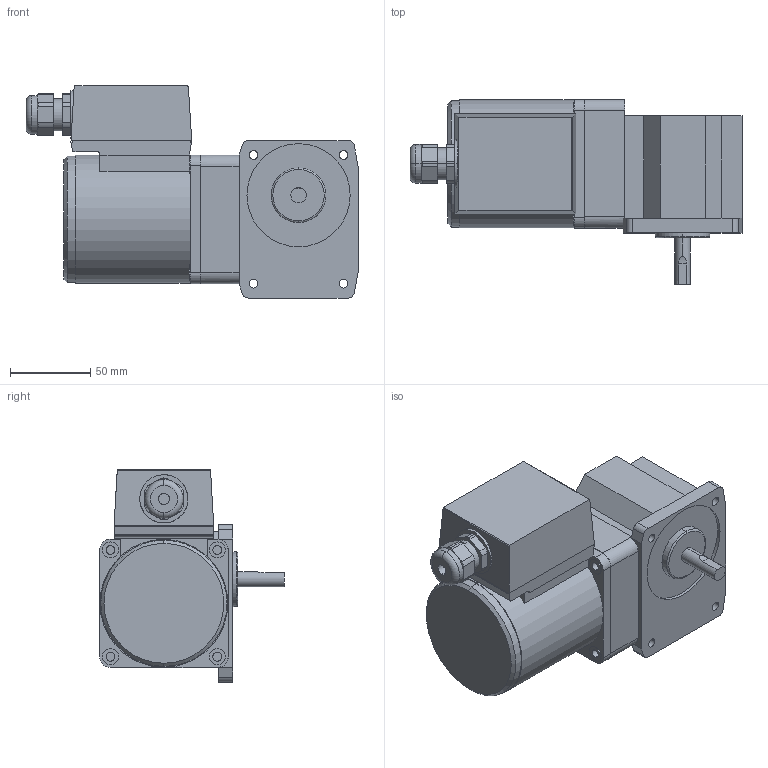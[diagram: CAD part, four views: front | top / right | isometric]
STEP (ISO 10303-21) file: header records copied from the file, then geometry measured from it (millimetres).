
FILE_DESCRIPTION(('starvars output'),'2;1');
FILE_NAME('4RK25GN-AW2TU _ 4GN15RAA.stp','13:42:30 2015/05/11',( 'Thomas Industrial Network Germany GmbH'),( 'Thomas Industrial Network Germany GmbH'),'unknown preprocess','ACIS' ,'unknown authorization');
FILE_SCHEMA(('AUTOMOTIVE_DESIGN_CC2 {UNKNOWN IMPLEMENTATION LEVEL}'));
Length unit declared in the file: millimetre
Products named in the file (1): PRODUCT_ID_1597
Bounding box: 206.62 x 115 x 132 mm (x, y, z)
Volume: 1206352.4 mm3; surface area: 95647.8 mm2
Topology: 2 solids, 2 shells, 196 faces, 494 edges, 324 vertices
Faces by surface type: plane 98, cylinder 84, torus 12, cone 2
Entity records: 7107 total; most frequent: CARTESIAN_POINT 1078, ORIENTED_EDGE 988, DIRECTION 808, EDGE_CURVE 494, VERTEX_POINT 324, VECTOR 292, LINE 292, AXIS2_PLACEMENT_3D 258
